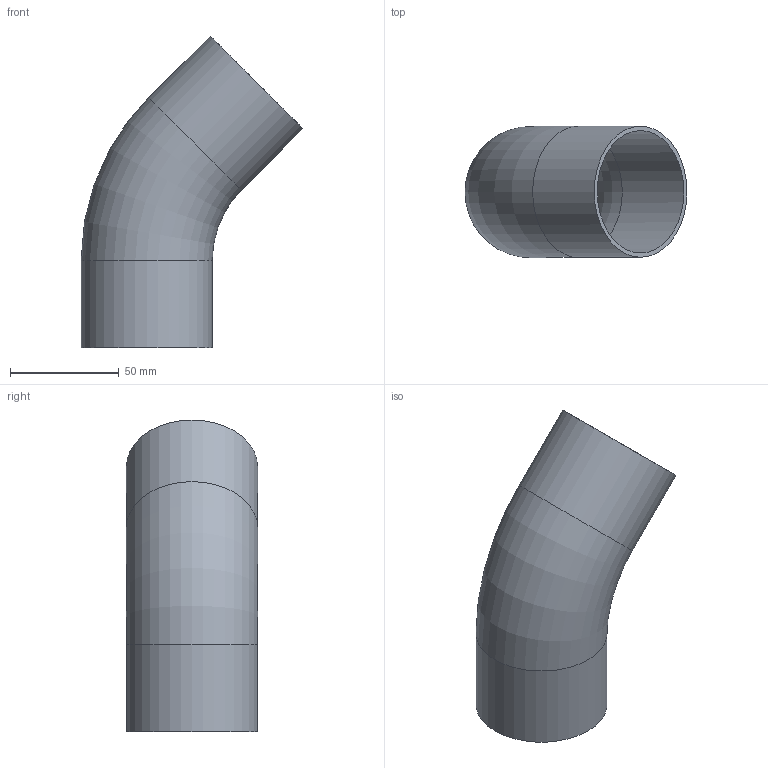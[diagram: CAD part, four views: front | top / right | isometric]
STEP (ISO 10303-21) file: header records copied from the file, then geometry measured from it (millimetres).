
FILE_DESCRIPTION(('Elbow 60,3x2_45 deg-Version 00'),'2;1');
FILE_NAME('E045_60,3x2_MR76_L71,5_00.stp','2013-09-04T12:25:18',(''),('DOCKWEILER AG'),'Autodesk Inventor 2012','Autodesk Inventor 2012','');
FILE_SCHEMA(('CONFIG_CONTROL_DESIGN'));
Length unit declared in the file: millimetre
Products named in the file (1): N0001_003_001
Bounding box: 102.03 x 60.3 x 143.38 mm (x, y, z)
Volume: 51184.4 mm3; surface area: 51917 mm2
Topology: 1 solids, 1 shells, 8 faces, 14 edges, 8 vertices
Faces by surface type: cylinder 4, torus 2, plane 2
Full cylindrical faces by diameter (mm): 56.3 x2, 60.3 x2
Entity records: 194 total; most frequent: DIRECTION 34, CARTESIAN_POINT 25, AXIS2_PLACEMENT_3D 17, ORIENTED_EDGE 16, EDGE_LOOP 16, VERTEX_POINT 8, CIRCLE 8, EDGE_CURVE 8
